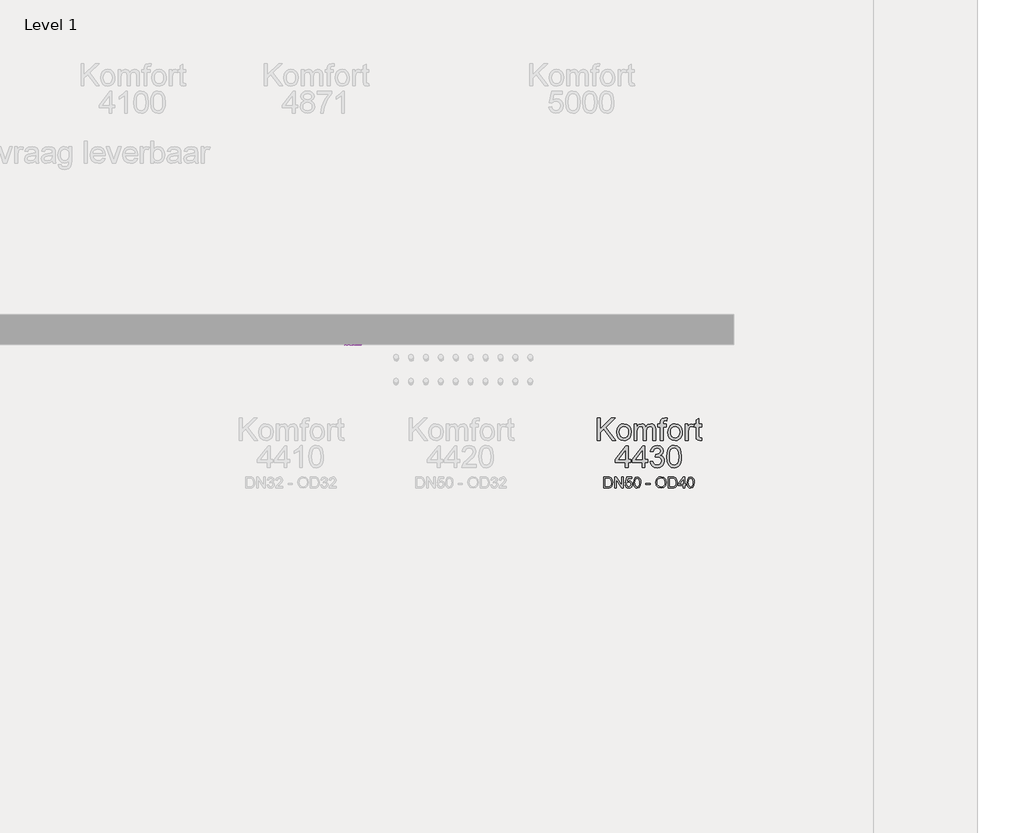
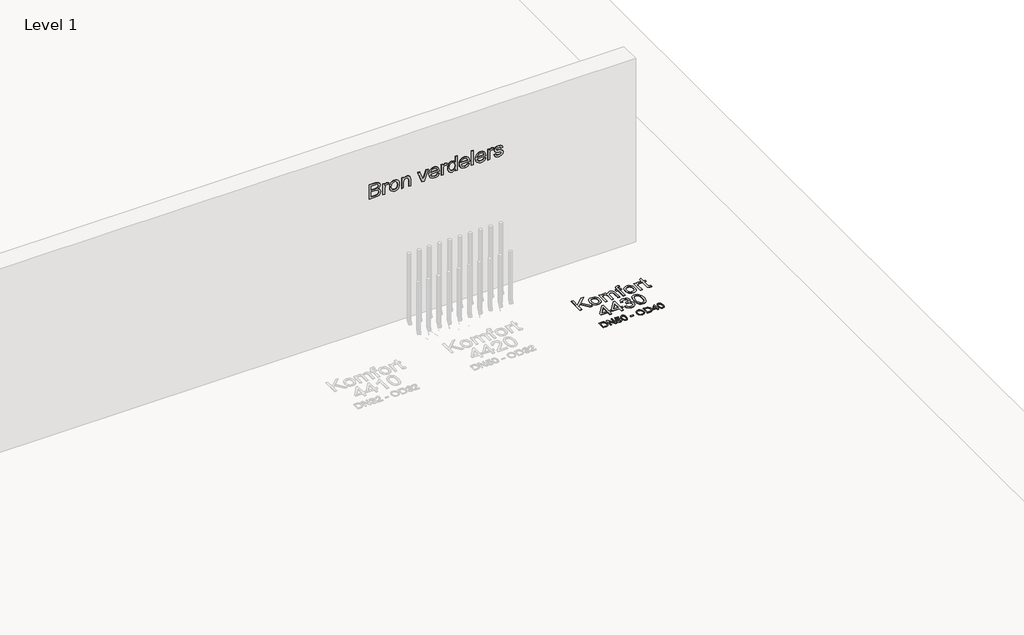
# One storey, part 33 of 34: 3 proxies.
"""IFC4 building model written with IfcOpenShell, lengths in millimetres."""

from ifc_helpers import new_model, si_unit, frame, origin, origin_with_axes, place, context, project, spatial, polyline, outline, extrude, element, save

model = new_model("IFC4")

# Units and contexts
model_context = context("Model", 3, world=origin())
ifc_project = project(units=[si_unit("LENGTHUNIT", "METRE", prefix="MILLI")], contexts=[model_context])

# Site, building, storey
site = spatial("IfcSite", under=ifc_project)
building = spatial("IfcBuilding", under=site)
storey = spatial("IfcBuildingStorey", under=building, Name="Level 1", Elevation=0.0)

# Proxies
placement = place(None, origin())
element("IfcBuildingElementProxy", 1, Name="DN", ObjectType="DN", at=placement, inside=storey, context=model_context, shape_type="SweptSolid", body=[
    extrude(outline(polyline([(1923.4238265, 6628.0579707), (1923.4238265, 6701.9041245), (1948.8985861, 6701.9041245), (1962.0776727, 6700.8404226), (1972.931038, 6695.5579707), (1981.6750284, 6682.9377784), (1984.5776727, 6665.3776822), (1982.6125284, 6650.4768409), (1977.5644515, 6639.7226341), (1970.821663, 6633.0249178), (1961.9965428, 6629.3199899), (1950.1245477, 6628.0579707), (1923.4238265, 6628.0579707)]), holes=[polyline([(1932.6545957, 6637.2887399), (1948.9887303, 6637.2887399), (1960.86974, 6638.6228745), (1967.7207015, 6642.3909034), (1973.3366871, 6651.5585716), (1975.3469034, 6665.521913), (1971.4076005, 6683.0098937), (1961.8252688, 6691.1949899), (1948.7363265, 6692.6733553), (1932.6545957, 6692.6733553), (1932.6545957, 6637.2887399)])]), origin_with_axes(), (0.0, 0.0, 1.0), 5.0),
    extrude(outline(polyline([(1997.2699803, 6628.0579707), (1997.2699803, 6701.9041245), (2007.149788, 6701.9041245), (2045.7315188, 6643.4005187), (2045.7315188, 6701.9041245), (2054.962288, 6701.9041245), (2054.962288, 6628.0579707), (2045.0824803, 6628.0579707), (2006.5007496, 6686.5796053), (2006.5007496, 6628.0579707), (1997.2699803, 6628.0579707)])), origin_with_axes(), (0.0, 0.0, 1.0), 5.0),
    extrude(outline(polyline([(2067.6545957, 6647.6733553), (2076.885365, 6648.8272014), (2081.5368073, 6639.3169851), (2091.18224, 6636.1348937), (2102.7567592, 6640.5609755), (2106.885365, 6652.3067687), (2103.0181775, 6663.2683072), (2091.3264707, 6667.2887399), (2083.2225044, 6665.6841726), (2078.0392111, 6661.5195091), (2068.8084419, 6662.6733553), (2076.885365, 6700.7502784), (2112.6545957, 6700.7502784), (2112.6545957, 6691.5195091), (2084.3493073, 6691.5195091), (2080.40099, 6671.1829707), (2093.9045957, 6676.5195091), (2102.529145, 6674.8653625), (2109.6888505, 6669.9029226), (2114.5093133, 6662.3398216), (2116.1161342, 6652.8836918), (2110.3288746, 6635.756288), (2102.0175765, 6629.1171654), (2091.1461823, 6626.9041245), (2082.0799263, 6628.3261498), (2074.8571198, 6632.5922255), (2069.9059479, 6639.2065584), (2067.6545957, 6647.6733553)])), origin_with_axes(), (0.0, 0.0, 1.0), 5.0),
    extrude(outline(polyline([(2124.1930573, 6664.3860957), (2126.9063986, 6685.6330909), (2134.9652928, 6697.8836918), (2148.4238265, 6701.9041245), (2159.2050765, 6699.5243168), (2166.65099, 6692.6643409), (2170.977913, 6681.7388601), (2172.6545957, 6664.3860957), (2169.9682977, 6643.2292447), (2161.9364467, 6630.9516005), (2148.4238265, 6626.9041245), (2138.8324803, 6628.661937), (2131.5488265, 6633.9353745), (2126.0319996, 6646.4248577), (2124.1930573, 6664.3860957)]), holes=[polyline([(2133.4238265, 6664.4041245), (2134.5055573, 6649.8841425), (2137.7507496, 6641.4804466), (2148.4238265, 6636.1348937), (2159.0969034, 6641.4984755), (2162.3420957, 6649.9066786), (2163.4238265, 6664.4041245), (2159.2411342, 6687.0663841), (2148.3156534, 6692.6733553), (2137.8949803, 6687.7334514), (2134.541615, 6678.7370572), (2133.4238265, 6664.4041245)])]), origin_with_axes(), (0.0, 0.0, 1.0), 5.0),
    extrude(outline(polyline([(2207.2699803, 6649.9810476), (2207.2699803, 6659.2118168), (2236.1161342, 6659.2118168), (2236.1161342, 6649.9810476), (2207.2699803, 6649.9810476)])), origin_with_axes(), (0.0, 0.0, 1.0), 5.0),
    extrude(outline(polyline([(2273.0392111, 6664.0074899), (2275.5001486, 6680.3371173), (2282.8829611, 6692.6913841), (2294.1554972, 6700.466324), (2308.2856053, 6703.0579707), (2326.6569996, 6698.1901822), (2339.1329611, 6684.614461), (2343.4238265, 6664.8548457), (2338.9076005, 6644.8247976), (2326.1071198, 6631.4473937), (2308.2315188, 6626.9041245), (2289.6618073, 6631.9251582), (2277.2579611, 6645.6270812), (2273.0392111, 6664.0074899)]), holes=[polyline([(2282.2699803, 6663.9173457), (2284.1156835, 6652.3653625), (2289.6527928, 6643.5627784), (2297.975359, 6637.9918649), (2308.1774323, 6636.1348937), (2318.5282436, 6638.0098937), (2326.8643313, 6643.6348937), (2332.3608758, 6652.7079106), (2334.1930573, 6664.926961), (2331.056038, 6680.161336), (2321.8883698, 6690.2484755), (2308.3396919, 6693.8272014), (2298.4103049, 6692.103193), (2289.9682977, 6686.9311678), (2284.1945597, 6677.7296954), (2282.2699803, 6663.9173457)])]), origin_with_axes(), (0.0, 0.0, 1.0), 5.0),
    extrude(outline(polyline([(2356.1161342, 6628.0579707), (2356.1161342, 6701.9041245), (2381.5908938, 6701.9041245), (2394.7699803, 6700.8404226), (2405.6233457, 6695.5579707), (2414.3673361, 6682.9377784), (2417.2699803, 6665.3776822), (2415.3048361, 6650.4768409), (2410.2567592, 6639.7226341), (2403.5139707, 6633.0249178), (2394.6888505, 6629.3199899), (2382.8168553, 6628.0579707), (2356.1161342, 6628.0579707)]), holes=[polyline([(2365.3469034, 6637.2887399), (2381.681038, 6637.2887399), (2393.5620477, 6638.6228745), (2400.4130092, 6642.3909034), (2406.0289948, 6651.5585716), (2408.0392111, 6665.521913), (2404.0999082, 6683.0098937), (2394.5175765, 6691.1949899), (2381.4286342, 6692.6733553), (2365.3469034, 6692.6733553), (2365.3469034, 6637.2887399)])]), origin_with_axes(), (0.0, 0.0, 1.0), 5.0),
    extrude(outline(polyline([(2456.5007496, 6628.0579707), (2456.5007496, 6645.365663), (2423.0392111, 6645.365663), (2423.0392111, 6654.5964322), (2458.8084419, 6700.7502784), (2465.7315188, 6700.7502784), (2465.7315188, 6654.5964322), (2474.962288, 6654.5964322), (2474.962288, 6645.365663), (2465.7315188, 6645.365663), (2465.7315188, 6628.0579707), (2456.5007496, 6628.0579707)]), holes=[polyline([(2456.5007496, 6654.5964322), (2456.5007496, 6683.1180668), (2434.3973842, 6654.5964322), (2456.5007496, 6654.5964322)])]), origin_with_axes(), (0.0, 0.0, 1.0), 5.0),
    extrude(outline(polyline([(2483.0392111, 6664.3860957), (2485.7525525, 6685.6330909), (2493.8114467, 6697.8836918), (2507.2699803, 6701.9041245), (2518.0512303, 6699.5243168), (2525.4971438, 6692.6643409), (2529.8240669, 6681.7388601), (2531.5007496, 6664.3860957), (2528.8144515, 6643.2292447), (2520.7826005, 6630.9516005), (2507.2699803, 6626.9041245), (2497.6786342, 6628.661937), (2490.3949803, 6633.9353745), (2484.8781534, 6646.4248577), (2483.0392111, 6664.3860957)]), holes=[polyline([(2492.2699803, 6664.4041245), (2493.3517111, 6649.8841425), (2496.5969034, 6641.4804466), (2507.2699803, 6636.1348937), (2517.9430573, 6641.4984755), (2521.1882496, 6649.9066786), (2522.2699803, 6664.4041245), (2518.087288, 6687.0663841), (2507.1618073, 6692.6733553), (2496.7411342, 6687.7334514), (2493.3877688, 6678.7370572), (2492.2699803, 6664.4041245)])]), origin_with_axes(), (0.0, 0.0, 1.0), 5.0),
])
element("IfcBuildingElementProxy", 2, Name="type", ObjectType="type", at=placement, inside=storey, context=model_context, shape_type="SweptSolid", body=[
    extrude(outline(polyline([(1881.3084419, 6948.0579707), (1881.3084419, 7095.7502784), (1899.7699803, 7095.7502784), (1899.7699803, 7023.4546053), (1975.4911342, 7095.7502784), (2001.3084419, 7095.7502784), (1937.7387303, 7035.0291245), (2003.6161342, 6948.0579707), (1981.0440188, 6948.0579707), (1924.649788, 7022.553163), (1899.7699803, 6998.8272014), (1899.7699803, 6948.0579707), (1881.3084419, 6948.0579707)])), origin_with_axes(), (0.0, 0.0, 1.0), 5.0),
    extrude(outline(polyline([(2010.5392111, 7002.2887399), (2014.5326005, 7028.4395812), (2026.5127688, 7046.8199899), (2041.3144515, 7055.8253985), (2059.0368073, 7058.8272014), (2078.4313385, 7055.1718529), (2093.9226246, 7044.2058072), (2104.0773722, 7026.794449), (2107.462288, 7003.803163), (2105.9658938, 6985.1523216), (2101.4767111, 6970.9546053), (2094.1254491, 6960.3220933), (2084.0428169, 6952.3668649), (2072.0671558, 6947.404425), (2059.0368073, 6945.7502784), (2039.407901, 6949.3921053), (2023.9346438, 6960.317586), (2013.8880693, 6978.0940284), (2010.5392111, 7002.2887399)]), holes=[polyline([(2029.0007496, 7002.3247976), (2031.1371678, 6985.6165644), (2037.5464227, 6973.7130187), (2047.1918553, 6966.5871173), (2059.0368073, 6964.2118168), (2070.8276727, 6966.6006389), (2080.4550765, 6973.7671053), (2086.8643313, 6985.8284034), (2089.0007496, 7002.9017207), (2086.8508097, 7019.123175), (2080.40099, 7030.864461), (2070.7600645, 7037.9903625), (2059.0368073, 7040.365663), (2047.1918553, 7037.9993769), (2037.5464227, 7030.9005187), (2031.1371678, 7019.0240163), (2029.0007496, 7002.3247976)])]), origin_with_axes(), (0.0, 0.0, 1.0), 5.0),
    extrude(outline(polyline([(2128.2315188, 6948.0579707), (2128.2315188, 7056.5195091), (2146.6930573, 7056.5195091), (2146.6930573, 7038.6709514), (2159.385365, 7053.2923457), (2177.4502688, 7058.8272014), (2187.7176967, 7057.4164442), (2195.947865, 7053.1841726), (2206.1161342, 7037.3728745), (2220.5211823, 7053.4636197), (2238.712288, 7058.8272014), (2252.5899924, 7056.5961317), (2262.852913, 7049.9029226), (2269.1945597, 7038.5672856), (2271.3084419, 7022.4089322), (2271.3084419, 6948.0579707), (2252.8469034, 6948.0579707), (2252.8469034, 7014.4762399), (2251.134163, 7029.8909034), (2244.93224, 7037.4810476), (2234.385365, 7040.365663), (2224.3838626, 7038.5177062), (2216.2303169, 7032.973836), (2210.8081414, 7023.3554466), (2209.0007496, 7009.2839322), (2209.0007496, 6948.0579707), (2190.5392111, 6948.0579707), (2190.5392111, 7016.5315284), (2186.2663746, 7034.4161437), (2180.6278529, 7038.8782832), (2172.2579611, 7040.365663), (2158.5920957, 7036.3993168), (2149.5055573, 7024.7887399), (2146.6930573, 7002.7574899), (2146.6930573, 6948.0579707), (2128.2315188, 6948.0579707)])), origin_with_axes(), (0.0, 0.0, 1.0), 5.0),
    extrude(outline(polyline([(2303.6161342, 6948.0579707), (2303.6161342, 7038.0579707), (2287.462288, 7038.0579707), (2287.462288, 7056.5195091), (2303.6161342, 7056.5195091), (2303.6161342, 7067.4449899), (2305.5632496, 7082.8416245), (2315.010365, 7093.8392207), (2333.6161342, 7098.0579707), (2350.4550765, 7096.0387399), (2347.7507496, 7078.7310476), (2337.1137303, 7079.5964322), (2325.4851246, 7076.5315284), (2322.0776727, 7065.1012399), (2322.0776727, 7056.5195091), (2342.8469034, 7056.5195091), (2342.8469034, 7038.0579707), (2322.0776727, 7038.0579707), (2322.0776727, 6948.0579707), (2303.6161342, 6948.0579707)])), origin_with_axes(), (0.0, 0.0, 1.0), 5.0),
    extrude(outline(polyline([(2354.385365, 7002.2887399), (2358.3787544, 7028.4395812), (2370.3589227, 7046.8199899), (2385.1606053, 7055.8253985), (2402.8829611, 7058.8272014), (2422.2774924, 7055.1718529), (2437.7687784, 7044.2058072), (2447.923526, 7026.794449), (2451.3084419, 7003.803163), (2449.8120477, 6985.1523216), (2445.322865, 6970.9546053), (2437.9716029, 6960.3220933), (2427.8889707, 6952.3668649), (2415.9133097, 6947.404425), (2402.8829611, 6945.7502784), (2383.2540549, 6949.3921053), (2367.7807977, 6960.317586), (2357.7342231, 6978.0940284), (2354.385365, 7002.2887399)]), holes=[polyline([(2372.8469034, 7002.3247976), (2374.9833217, 6985.6165644), (2381.3925765, 6973.7130187), (2391.0380092, 6966.5871173), (2402.8829611, 6964.2118168), (2414.6738265, 6966.6006389), (2424.3012303, 6973.7671053), (2430.7104852, 6985.8284034), (2432.8469034, 7002.9017207), (2430.6969635, 7019.123175), (2424.2471438, 7030.864461), (2414.6062183, 7037.9903625), (2402.8829611, 7040.365663), (2391.0380092, 7037.9993769), (2381.3925765, 7030.9005187), (2374.9833217, 7019.0240163), (2372.8469034, 7002.3247976)])]), origin_with_axes(), (0.0, 0.0, 1.0), 5.0),
    extrude(outline(polyline([(2472.0776727, 6948.0579707), (2472.0776727, 7056.5195091), (2488.2315188, 7056.5195091), (2488.2315188, 7040.473836), (2499.697865, 7055.2574899), (2511.2363265, 7058.8272014), (2529.7699803, 7053.130086), (2523.604115, 7036.5796053), (2510.6233457, 7040.365663), (2500.1846438, 7036.723836), (2493.5319996, 7026.6276822), (2490.5392111, 7005.0651822), (2490.5392111, 6948.0579707), (2472.0776727, 6948.0579707)])), origin_with_axes(), (0.0, 0.0, 1.0), 5.0),
    extrude(outline(polyline([(2580.5392111, 6963.4546053), (2582.8469034, 6947.5171053), (2569.0368073, 6945.7502784), (2553.5680573, 6948.8151822), (2545.8517111, 6956.8560476), (2543.6161342, 6977.8055668), (2543.6161342, 7038.0579707), (2529.7699803, 7038.0579707), (2529.7699803, 7056.5195091), (2543.6161342, 7056.5195091), (2543.6161342, 7082.8776822), (2562.0776727, 7093.7310476), (2562.0776727, 7056.5195091), (2580.5392111, 7056.5195091), (2580.5392111, 7038.0579707), (2562.0776727, 7038.0579707), (2562.0776727, 6978.3464322), (2563.0512303, 6968.8272014), (2566.2062784, 6965.4558072), (2572.4983457, 6964.2118168), (2580.5392111, 6963.4546053)])), origin_with_axes(), (0.0, 0.0, 1.0), 5.0),
    extrude(outline(polyline([(2068.2315188, 6765.7502784), (2068.2315188, 6800.365663), (2001.3084419, 6800.365663), (2001.3084419, 6818.8272014), (2072.8469034, 6911.1348937), (2086.6930573, 6911.1348937), (2086.6930573, 6818.8272014), (2105.1545957, 6818.8272014), (2105.1545957, 6800.365663), (2086.6930573, 6800.365663), (2086.6930573, 6765.7502784), (2068.2315188, 6765.7502784)]), holes=[polyline([(2068.2315188, 6818.8272014), (2068.2315188, 6875.8704707), (2024.024788, 6818.8272014), (2068.2315188, 6818.8272014)])]), origin_with_axes(), (0.0, 0.0, 1.0), 5.0),
    extrude(outline(polyline([(2181.3084419, 6765.7502784), (2181.3084419, 6800.365663), (2114.385365, 6800.365663), (2114.385365, 6818.8272014), (2185.9238265, 6911.1348937), (2199.7699803, 6911.1348937), (2199.7699803, 6818.8272014), (2218.2315188, 6818.8272014), (2218.2315188, 6800.365663), (2199.7699803, 6800.365663), (2199.7699803, 6765.7502784), (2181.3084419, 6765.7502784)]), holes=[polyline([(2181.3084419, 6818.8272014), (2181.3084419, 6875.8704707), (2137.1017111, 6818.8272014), (2181.3084419, 6818.8272014)])]), origin_with_axes(), (0.0, 0.0, 1.0), 5.0),
    extrude(outline(polyline([(2234.385365, 6804.9810476), (2252.8469034, 6807.2887399), (2256.9800164, 6795.6871774), (2263.0332015, 6787.8536437), (2271.3039347, 6783.3915043), (2282.0896919, 6781.9041245), (2294.7459419, 6783.9503985), (2304.5175765, 6790.0892207), (2310.7645717, 6799.2478745), (2312.8469034, 6810.3536437), (2310.7826005, 6820.8960115), (2304.5896919, 6829.4461918), (2295.2146919, 6835.1117567), (2283.604115, 6837.0002784), (2270.6594034, 6834.9810476), (2272.7146919, 6853.442586), (2275.6714227, 6853.2262399), (2296.6209419, 6858.5267207), (2303.5981053, 6865.2514803), (2305.9238265, 6874.8247976), (2304.2381294, 6882.7980548), (2299.181038, 6889.2659034), (2291.4646919, 6893.5522615), (2281.8012303, 6894.9810476), (2272.11974, 6893.5387399), (2264.2050765, 6889.2118168), (2258.4268313, 6882.0002784), (2255.1545957, 6871.9041245), (2236.6930573, 6874.2118168), (2242.1287544, 6890.7893409), (2251.8012303, 6903.1661437), (2265.0344034, 6910.8734755), (2281.1521919, 6913.442586), (2303.4178169, 6908.3764803), (2318.99474, 6894.5303264), (2324.385365, 6875.9065284), (2319.2651727, 6858.8872976), (2304.1209419, 6846.6637399), (2315.6774323, 6841.9942687), (2324.2411342, 6834.0435476), (2329.541615, 6823.2442687), (2331.3084419, 6810.0291245), (2327.774788, 6792.036336), (2317.1738265, 6777.0002784), (2301.1732255, 6766.8320091), (2281.4406534, 6763.442586), (2263.5920957, 6766.3362159), (2249.0608457, 6775.0171053), (2238.9556775, 6788.2953505), (2234.385365, 6804.9810476)])), origin_with_axes(), (0.0, 0.0, 1.0), 5.0),
    extrude(outline(polyline([(2347.462288, 6838.4065284), (2348.8189587, 6862.0468529), (2352.8889707, 6880.9005187), (2359.6317592, 6895.2559875), (2369.0067592, 6905.4017207), (2381.0815789, 6911.4323697), (2395.9238265, 6913.442586), (2417.4863265, 6908.6829707), (2432.3781534, 6894.9630187), (2441.0319996, 6873.1120572), (2444.385365, 6838.4065284), (2443.0422159, 6814.9014202), (2439.0127688, 6796.0928264), (2432.3105452, 6781.723836), (2422.9490669, 6771.537538), (2410.8472039, 6765.466324), (2395.9238265, 6763.442586), (2376.7411342, 6766.958211), (2362.1738265, 6777.505086), (2351.1401727, 6802.4840524), (2347.462288, 6838.4065284)]), holes=[polyline([(2365.9238265, 6838.442586), (2368.087288, 6809.4026221), (2374.5776727, 6792.5952303), (2384.2411342, 6784.576901), (2395.9238265, 6781.9041245), (2407.6065188, 6784.5859154), (2417.2699803, 6792.631288), (2423.760365, 6809.4476942), (2425.9238265, 6838.442586), (2423.8324803, 6866.8290043), (2417.5584419, 6883.7671053), (2407.9130092, 6892.177562), (2395.7074803, 6894.9810476), (2384.15099, 6892.5110957), (2374.8661342, 6885.1012399), (2368.1594034, 6867.1084514), (2365.9238265, 6838.442586)])]), origin_with_axes(), (0.0, 0.0, 1.0), 5.0),
])
element("IfcBuildingElementProxy", 3, Name="type", ObjectType="type", at=placement, inside=storey, context=model_context, shape_type="SweptSolid", body=[
    extrude(outline(polyline([(1357.8758816, 187.5639595), (1357.8758816, 243.4894402), (1360.4179489, 267.1613152), (1367.9179489, 283.2250172), (1382.0525643, 293.9882383), (1401.9023239, 298.3331902), (1414.2610979, 296.7421446), (1424.8710739, 291.9690075), (1433.1823719, 284.2391398), (1438.6451123, 273.7779018), (1451.7160258, 288.7598729), (1468.9696316, 293.7178056), (1487.8638623, 287.8223729), (1495.7109176, 280.8001374), (1501.2232373, 271.524296), (1505.5681893, 243.9221325), (1505.5681893, 187.5639595), (1357.8758816, 187.5639595)]), holes=[polyline([(1376.33742, 206.0254979), (1427.1066508, 206.0254979), (1427.1066508, 242.0831902), (1424.6366989, 264.8896806), (1416.0729969, 276.3379979), (1401.7220354, 279.8716518), (1389.2821316, 276.8608345), (1381.0790066, 269.180546), (1377.0585739, 257.5879979), (1376.33742, 243.8860749), (1376.33742, 206.0254979)]), polyline([(1445.5681893, 206.0254979), (1487.1066508, 206.0254979), (1487.1066508, 237.1793441), (1485.1775643, 260.9053056), (1478.05617, 271.5423249), (1466.0129008, 275.2562672), (1453.9876604, 271.2718922), (1447.1547277, 259.4269402), (1445.5681893, 239.7394402), (1445.5681893, 206.0254979)])]), frame((0.0, 7584.9863889, 0.0), z_axis=(0.0, 1.0, 0.0), x_axis=(0.0, 0.0, 1.0)), (0.0, 0.0, 1.0), 5.0),
    extrude(outline(polyline([(1357.8758816, 321.4101133), (1357.8758816, 339.8716518), (1414.8830931, 339.8716518), (1436.4455931, 342.8644402), (1446.5417469, 349.5170845), (1450.1835739, 359.9557864), (1446.3975162, 372.9365556), (1462.9479969, 379.102421), (1468.6451123, 360.5687672), (1465.0754008, 349.0303056), (1450.2917469, 337.5639595), (1466.33742, 337.5639595), (1466.33742, 321.4101133), (1357.8758816, 321.4101133)])), frame((0.0, 7584.9863889, 0.0), z_axis=(0.0, 1.0, 0.0), x_axis=(0.0, 0.0, 1.0)), (0.0, 0.0, 1.0), 5.0),
    extrude(outline(polyline([(1412.1066508, 386.0254979), (1387.9119393, 389.3743561), (1370.1354969, 399.4209306), (1359.2100162, 414.8941878), (1355.5681893, 434.5230941), (1357.2223359, 447.5534426), (1362.1847758, 459.5291037), (1370.1400042, 469.6117359), (1380.7725162, 476.9629979), (1394.9702325, 481.4521806), (1413.6210739, 482.9485749), (1436.6123599, 479.563659), (1454.0237181, 469.4089114), (1464.9897638, 453.9176253), (1468.6451123, 434.5230941), (1465.6433094, 416.8007383), (1456.6379008, 401.9990556), (1438.2574921, 390.0188874), (1412.1066508, 386.0254979)]), holes=[polyline([(1412.1427085, 404.4870364), (1428.8419272, 406.6234547), (1440.7184296, 413.0327095), (1447.8172878, 422.6781422), (1450.1835739, 434.5230941), (1447.8082734, 446.2463513), (1440.6823719, 455.8872768), (1428.9410859, 462.3370965), (1412.7196316, 464.4870364), (1395.6463143, 462.3506181), (1383.5850162, 455.9413633), (1376.4185498, 446.3139595), (1374.0297277, 434.5230941), (1376.4050282, 422.6781422), (1383.5309296, 413.0327095), (1395.4344753, 406.6234547), (1412.1427085, 404.4870364)])]), frame((0.0, 7584.9863889, 0.0), z_axis=(0.0, 1.0, 0.0), x_axis=(0.0, 0.0, 1.0)), (0.0, 0.0, 1.0), 5.0),
    extrude(outline(polyline([(1357.8758816, 503.7178056), (1357.8758816, 522.1793441), (1415.4239585, 522.1793441), (1432.4341748, 524.2842119), (1442.9359777, 530.5988152), (1448.3716748, 539.8160628), (1450.1835739, 550.6288633), (1446.9564104, 563.3031422), (1438.3205931, 570.821171), (1421.9864585, 572.9485749), (1357.8758816, 572.9485749), (1357.8758816, 591.4101133), (1424.4744393, 591.4101133), (1442.3229969, 590.4365556), (1455.8987181, 584.9016999), (1465.1294873, 573.0026614), (1468.6451123, 555.5687672), (1464.2821316, 536.2959306), (1451.1931893, 522.1793441), (1466.33742, 522.1793441), (1466.33742, 503.7178056), (1357.8758816, 503.7178056)])), frame((0.0, 7584.9863889, 0.0), z_axis=(0.0, 1.0, 0.0), x_axis=(0.0, 0.0, 1.0)), (0.0, 0.0, 1.0), 5.0),
    extrude(outline(polyline([(1357.8758816, 701.0976133), (1357.8758816, 724.4990556), (1466.33742, 762.1793441), (1466.33742, 742.6360749), (1400.1354969, 719.3788633), (1379.5104969, 712.5639595), (1401.3614585, 705.6048249), (1466.33742, 682.4918441), (1466.33742, 662.9485749), (1357.8758816, 701.0976133)])), frame((0.0, 7584.9863889, 0.0), z_axis=(0.0, 1.0, 0.0), x_axis=(0.0, 0.0, 1.0)), (0.0, 0.0, 1.0), 5.0),
    extrude(outline(polyline([(1390.1835739, 854.2706902), (1377.8879008, 842.3716518), (1374.0297277, 824.2706902), (1376.1120594, 811.204284), (1382.3590546, 800.4906422), (1392.5183094, 793.0672648), (1406.33742, 789.8716518), (1406.33742, 872.8404018), (1411.3133816, 872.9485749), (1435.5171075, 869.4464715), (1453.6090546, 858.9401614), (1464.8860979, 842.9170244), (1468.6451123, 822.8644402), (1464.8770835, 802.1673249), (1453.5729969, 785.7250172), (1435.4449921, 774.9888393), (1411.2052085, 771.4101133), (1387.7541869, 774.9527816), (1370.1895835, 785.5807864), (1359.2235378, 802.2484547), (1355.5681893, 823.9101133), (1357.6865787, 841.3845724), (1364.0417469, 855.4425652), (1374.2370594, 865.8497167), (1387.8758816, 872.3716518), (1390.1835739, 854.2706902)]), holes=[polyline([(1424.7989585, 789.8716518), (1435.2061099, 792.9050051), (1443.2785258, 800.0579499), (1448.4573119, 810.3479138), (1450.1835739, 822.7923249), (1448.0201123, 836.3319883), (1441.5297277, 847.0952095), (1434.5525643, 851.9900412), (1424.7989585, 854.4870364), (1424.7989585, 789.8716518)])]), frame((0.0, 7584.9863889, 0.0), z_axis=(0.0, 1.0, 0.0), x_axis=(0.0, 0.0, 1.0)), (0.0, 0.0, 1.0), 5.0),
    extrude(outline(polyline([(1357.8758816, 891.4101133), (1357.8758816, 909.8716518), (1414.8830931, 909.8716518), (1436.4455931, 912.8644402), (1446.5417469, 919.5170845), (1450.1835739, 929.9557864), (1446.3975162, 942.9365556), (1462.9479969, 949.102421), (1468.6451123, 930.5687672), (1465.0754008, 919.0303056), (1450.2917469, 907.5639595), (1466.33742, 907.5639595), (1466.33742, 891.4101133), (1357.8758816, 891.4101133)])), frame((0.0, 7584.9863889, 0.0), z_axis=(0.0, 1.0, 0.0), x_axis=(0.0, 0.0, 1.0)), (0.0, 0.0, 1.0), 5.0),
    extrude(outline(polyline([(1357.8758816, 1027.5639595), (1357.8758816, 1046.0254979), (1505.5681893, 1046.0254979), (1505.5681893, 1027.5639595), (1450.5441508, 1027.5639595), (1463.6150643, 1015.4125172), (1468.6451123, 998.3932864), (1466.8872998, 985.9939474), (1461.6138623, 974.8295845), (1453.041146, 965.5988152), (1441.3854969, 959.0002575), (1411.9984777, 953.7178056), (1396.3629609, 955.1510989), (1382.6294873, 959.4509787), (1371.2577926, 966.3560268), (1362.7076123, 975.6048249), (1357.353045, 986.5303056), (1355.5681893, 998.4654018), (1360.4990787, 1015.3494162), (1375.2917469, 1027.5639595), (1357.8758816, 1027.5639595)]), holes=[polyline([(1412.0705931, 972.1793441), (1429.1844753, 974.1264595), (1441.0068912, 979.9678056), (1447.8894032, 988.7208104), (1450.1835739, 999.4029018), (1447.7947518, 1010.359933), (1440.6282854, 1019.4329499), (1428.3596556, 1025.5312071), (1410.6643431, 1027.5639595), (1394.4789465, 1025.5672648), (1383.0621796, 1019.5771806), (1376.2878407, 1010.7295244), (1374.0297277, 1000.1601133), (1376.3960138, 989.586195), (1383.4948719, 980.508671), (1395.3713744, 974.2616758), (1412.0705931, 972.1793441)])]), frame((0.0, 7584.9863889, 0.0), z_axis=(0.0, 1.0, 0.0), x_axis=(0.0, 0.0, 1.0)), (0.0, 0.0, 1.0), 5.0),
    extrude(outline(polyline([(1390.1835739, 1149.6553056), (1377.8879008, 1137.7562672), (1374.0297277, 1119.6553056), (1376.1120594, 1106.5888994), (1382.3590546, 1095.8752575), (1392.5183094, 1088.4518801), (1406.33742, 1085.2562672), (1406.33742, 1168.2250172), (1411.3133816, 1168.3331902), (1435.5171075, 1164.8310869), (1453.6090546, 1154.3247768), (1464.8860979, 1138.3016398), (1468.6451123, 1118.2490556), (1464.8770835, 1097.5519402), (1453.5729969, 1081.1096325), (1435.4449921, 1070.3734547), (1411.2052085, 1066.7947287), (1387.7541869, 1070.337397), (1370.1895835, 1080.9654018), (1359.2235378, 1097.63307), (1355.5681893, 1119.2947287), (1357.6865787, 1136.7691878), (1364.0417469, 1150.8271806), (1374.2370594, 1161.2343321), (1387.8758816, 1167.7562672), (1390.1835739, 1149.6553056)]), holes=[polyline([(1424.7989585, 1085.2562672), (1435.2061099, 1088.2896205), (1443.2785258, 1095.4425652), (1448.4573119, 1105.7325292), (1450.1835739, 1118.1769402), (1448.0201123, 1131.7166037), (1441.5297277, 1142.4798249), (1434.5525643, 1147.3746566), (1424.7989585, 1149.8716518), (1424.7989585, 1085.2562672)])]), frame((0.0, 7584.9863889, 0.0), z_axis=(0.0, 1.0, 0.0), x_axis=(0.0, 0.0, 1.0)), (0.0, 0.0, 1.0), 5.0),
    extrude(outline(polyline([(1205.2562672, 7584.9863889), (1186.7947287, 7584.9863889), (1186.7947287, 7589.9863889), (1205.2562672, 7589.9863889), (1205.2562672, 7584.9863889)])), frame((0.0, 0.0, 1357.8758816), z_axis=(0.0, 0.0, 1.0), x_axis=(1.0, 0.0, 0.0)), (0.0, 0.0, 1.0), 147.6923077),
    extrude(outline(polyline([(1390.1835739, 1308.8860749), (1377.8879008, 1296.9870364), (1374.0297277, 1278.8860749), (1376.1120594, 1265.8196686), (1382.3590546, 1255.1060268), (1392.5183094, 1247.6826494), (1406.33742, 1244.4870364), (1406.33742, 1327.4557864), (1411.3133816, 1327.5639595), (1435.5171075, 1324.0618561), (1453.6090546, 1313.555546), (1464.8860979, 1297.532409), (1468.6451123, 1277.4798249), (1464.8770835, 1256.7827095), (1453.5729969, 1240.3404018), (1435.4449921, 1229.6042239), (1411.2052085, 1226.0254979), (1387.7541869, 1229.5681662), (1370.1895835, 1240.196171), (1359.2235378, 1256.8638393), (1355.5681893, 1278.5254979), (1357.6865787, 1295.9999571), (1364.0417469, 1310.0579499), (1374.2370594, 1320.4651013), (1387.8758816, 1326.9870364), (1390.1835739, 1308.8860749)]), holes=[polyline([(1424.7989585, 1244.4870364), (1435.2061099, 1247.5203898), (1443.2785258, 1254.6733345), (1448.4573119, 1264.9632984), (1450.1835739, 1277.4077095), (1448.0201123, 1290.9473729), (1441.5297277, 1301.7105941), (1434.5525643, 1306.6054258), (1424.7989585, 1309.102421), (1424.7989585, 1244.4870364)])]), frame((0.0, 7584.9863889, 0.0), z_axis=(0.0, 1.0, 0.0), x_axis=(0.0, 0.0, 1.0)), (0.0, 0.0, 1.0), 5.0),
    extrude(outline(polyline([(1357.8758816, 1346.0254979), (1357.8758816, 1364.4870364), (1414.8830931, 1364.4870364), (1436.4455931, 1367.4798249), (1446.5417469, 1374.1324691), (1450.1835739, 1384.571171), (1446.3975162, 1397.5519402), (1462.9479969, 1403.7178056), (1468.6451123, 1385.1841518), (1465.0754008, 1373.6456902), (1450.2917469, 1362.1793441), (1466.33742, 1362.1793441), (1466.33742, 1346.0254979), (1357.8758816, 1346.0254979)])), frame((0.0, 7584.9863889, 0.0), z_axis=(0.0, 1.0, 0.0), x_axis=(0.0, 0.0, 1.0)), (0.0, 0.0, 1.0), 5.0),
    extrude(outline(polyline([(1390.1835739, 1408.3331902), (1375.1294873, 1413.399296), (1364.2941508, 1422.4678056), (1357.7496796, 1436.0525412), (1355.5681893, 1454.6673249), (1360.0934296, 1477.5279018), (1372.9119393, 1492.9786229), (1390.5802085, 1498.3331902), (1406.6258816, 1493.7718922), (1416.4696316, 1481.1877575), (1425.1595354, 1454.0904018), (1429.0898239, 1438.1889595), (1433.1643431, 1431.3019402), (1438.5369393, 1429.102421), (1446.6859777, 1434.4029018), (1450.1835739, 1452.071171), (1446.5237181, 1468.3151614), (1436.33742, 1475.2562672), (1438.6451123, 1493.7178056), (1455.2136219, 1487.3716518), (1465.0213143, 1473.0928056), (1468.6451123, 1450.6288633), (1466.3915066, 1434.7454499), (1460.9287662, 1423.008671), (1450.4179489, 1413.9581902), (1436.6619393, 1410.6408825), (1421.7701123, 1414.7694883), (1411.2232373, 1426.9029018), (1402.1907854, 1454.7033825), (1396.9263623, 1473.7057864), (1388.6330931, 1479.8716518), (1378.3927085, 1473.7418441), (1374.0297277, 1454.9197287), (1378.7893431, 1435.3404018), (1384.5946316, 1429.7063874), (1392.4912662, 1426.7947287), (1390.1835739, 1408.3331902)])), frame((0.0, 7584.9863889, 0.0), z_axis=(0.0, 1.0, 0.0), x_axis=(0.0, 0.0, 1.0)), (0.0, 0.0, 1.0), 5.0),
])

save(model, "model.ifc")
